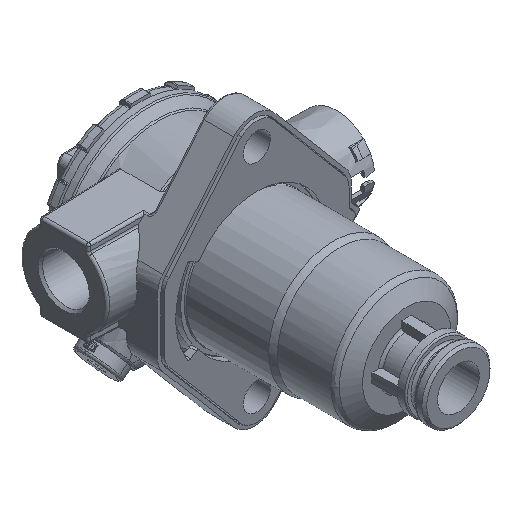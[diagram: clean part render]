
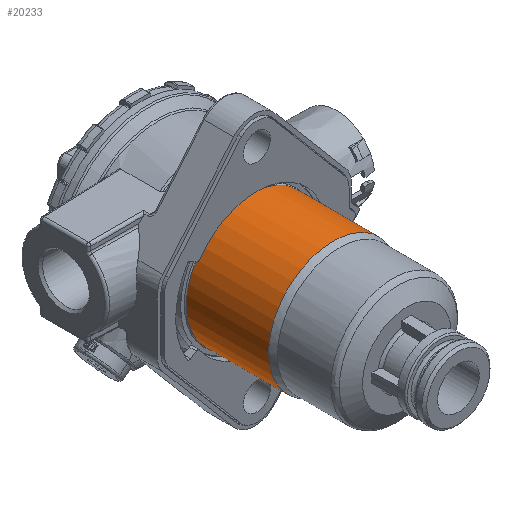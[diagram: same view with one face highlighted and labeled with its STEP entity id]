
A CAD part, isometric view. The second image highlights one B-rep face of the part: STEP entity #20233.
In plain terms, the highlighted free-form (B-spline) face has degree [2, 1] with [7, 2] control points.
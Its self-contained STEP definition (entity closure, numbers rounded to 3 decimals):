
#20154=CARTESIAN_POINT('V1091',(-26.2,
   -32.6,0.));
#20155=VERTEX_POINT('V1091',#20154);
#20161=CARTESIAN_POINT('E1859',(-26.2,
   -32.6,0.));
#20162=CARTESIAN_POINT('E1859',(-26.2,
   -32.6,-45.38));
#20163=CARTESIAN_POINT('E1859',(13.1,
   -32.6,-22.69));
#20164=CARTESIAN_POINT('E1859',(52.4,
   -32.6,0.));
#20165=CARTESIAN_POINT('E1859',(13.1,
   -32.6,22.69));
#20166=CARTESIAN_POINT('E1859',(-26.2,
   -32.6,45.38));
#20167=CARTESIAN_POINT('E1859',(-26.2,
   -32.6,0.));
#20175=(BOUNDED_CURVE()B_SPLINE_CURVE(2,(#20161,#20162,#20163,
   #20164,#20165,#20166,#20167),.CIRCULAR_ARC.,.T.,.U.)
   B_SPLINE_CURVE_WITH_KNOTS((3,2,2,3),(0.0,32.083,
   64.166,96.249),.UNSPECIFIED.)CURVE()
   GEOMETRIC_REPRESENTATION_ITEM()RATIONAL_B_SPLINE_CURVE((1.0,
   0.5,1.0,0.5,1.0,0.5,1.0)
   )REPRESENTATION_ITEM('E1859'));
#20176=EDGE_CURVE('E1859',#20155,#20155,#20175,.T.);
#20183=CARTESIAN_POINT('F741',(-26.2,0.88,
   0.));
#20184=CARTESIAN_POINT('F741',(-26.2,0.88,
   -45.38));
#20185=CARTESIAN_POINT('F741',(13.1,0.88,
   -22.69));
#20186=CARTESIAN_POINT('F741',(52.4,0.88,
   0.));
#20187=CARTESIAN_POINT('F741',(13.1,0.88,
   22.69));
#20188=CARTESIAN_POINT('F741',(-26.2,0.88,
   45.38));
#20189=CARTESIAN_POINT('F741',(-26.2,0.88,
   0.));
#20190=CARTESIAN_POINT('F741',(-26.2,
   -32.6,0.));
#20191=CARTESIAN_POINT('F741',(-26.2,
   -32.6,-45.38));
#20192=CARTESIAN_POINT('F741',(13.1,
   -32.6,-22.69));
#20193=CARTESIAN_POINT('F741',(52.4,
   -32.6,0.));
#20194=CARTESIAN_POINT('F741',(13.1,
   -32.6,22.69));
#20195=CARTESIAN_POINT('F741',(-26.2,
   -32.6,45.38));
#20196=CARTESIAN_POINT('F741',(-26.2,
   -32.6,0.));
#20204=(BOUNDED_SURFACE()B_SPLINE_SURFACE(2,1,((#20183,#20190),(
   #20184,#20191),(#20185,#20192),(#20186,#20193),(#20187,
   #20194),(#20188,#20195),(#20189,#20196)),.CYLINDRICAL_SURF.,
   .T.,.F.,.U.)B_SPLINE_SURFACE_WITH_KNOTS((3,2,2,3),(2,2),(0.0,
   2.711,5.422,8.132),(0.0,1.0),
   .UNSPECIFIED.)GEOMETRIC_REPRESENTATION_ITEM()
   RATIONAL_B_SPLINE_SURFACE(((1.0,1.0),(0.5,
   0.5),(1.0,1.0),(0.5,
   0.5),(1.0,1.0),(0.5,
   0.5),(1.0,1.0)))REPRESENTATION_ITEM('F741')
   SURFACE());
#20205=CARTESIAN_POINT('V191',(-26.2,0.88,
   0.));
#20206=VERTEX_POINT('V191',#20205);
#20207=CARTESIAN_POINT('E1860',(-26.2,
   -32.6,0.0));
#20208=CARTESIAN_POINT('E1860',(-26.2,
   0.88,0.0));
#20209=QUASI_UNIFORM_CURVE('E1860',1,(#20207,#20208),.POLYLINE_FORM.,
   .F.,.U.);
#20210=EDGE_CURVE('E1860',#20155,#20206,#20209,.T.);
#20211=ORIENTED_EDGE('E1860',*,*,#20210,.T.);
#20212=CARTESIAN_POINT('E235',(-26.2,0.88,
   0.));
#20213=CARTESIAN_POINT('E235',(-26.2,0.88,
   -45.38));
#20214=CARTESIAN_POINT('E235',(13.1,0.88,
   -22.69));
#20215=CARTESIAN_POINT('E235',(52.4,0.88,
   0.));
#20216=CARTESIAN_POINT('E235',(13.1,0.88,
   22.69));
#20217=CARTESIAN_POINT('E235',(-26.2,0.88,
   45.38));
#20218=CARTESIAN_POINT('E235',(-26.2,0.88,
   0.));
#20226=(BOUNDED_CURVE()B_SPLINE_CURVE(2,(#20212,#20213,#20214,
   #20215,#20216,#20217,#20218),.CIRCULAR_ARC.,.T.,.U.)
   B_SPLINE_CURVE_WITH_KNOTS((3,2,2,3),(0.0,2.711,
   5.422,8.132),.UNSPECIFIED.)CURVE()
   GEOMETRIC_REPRESENTATION_ITEM()RATIONAL_B_SPLINE_CURVE((1.0,
   0.5,1.0,0.5,1.0,0.5,1.0)
   )REPRESENTATION_ITEM('E235'));
#20227=EDGE_CURVE('E235',#20206,#20206,#20226,.T.);
#20228=ORIENTED_EDGE('E235',*,*,#20227,.T.);
#20229=ORIENTED_EDGE('E1860',*,*,#20210,.F.);
#20230=ORIENTED_EDGE('E1859',*,*,#20176,.F.);
#20231=EDGE_LOOP('F741',(#20211,#20228,#20229,#20230));
#20232=FACE_OUTER_BOUND('F741',#20231,.T.);
#20233=ADVANCED_FACE('F741',(#20232),#20204,.T.);
